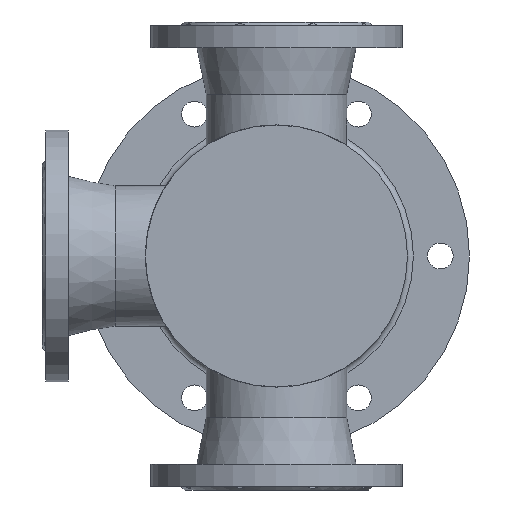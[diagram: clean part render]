
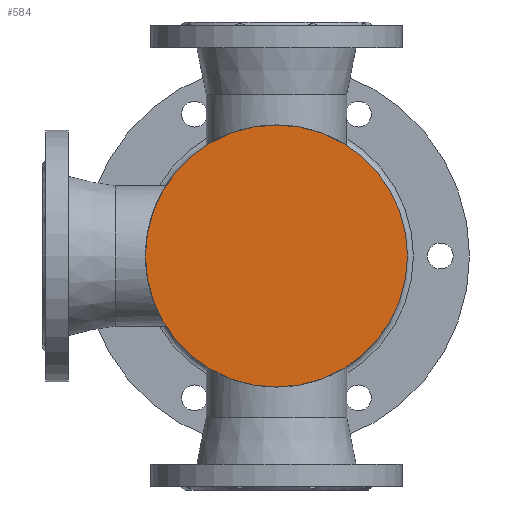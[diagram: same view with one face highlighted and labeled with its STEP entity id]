
A CAD part, front view. The second image highlights one B-rep face of the part: STEP entity #584.
In plain terms, the highlighted planar face has unit normal (0, -1, 0).
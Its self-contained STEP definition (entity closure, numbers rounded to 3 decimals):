
#584=ADVANCED_FACE('',(#1434),#1436,.T.);
#1434=FACE_BOUND('',#1435,.T.);
#1435=EDGE_LOOP('',(#1995));
#1436=PLANE('',#1437);
#1437=AXIS2_PLACEMENT_3D('',#1438,#1439,#1440);
#1438=CARTESIAN_POINT('',(0.,-157.5,0.));
#1439=DIRECTION('',(0.,-1.,0.));
#1440=DIRECTION('',(0.,0.,-1.));
#1995=ORIENTED_EDGE('',*,*,#2256,.T.);
#2256=EDGE_CURVE('',#2616,#2616,#2617,.T.);
#2616=VERTEX_POINT('',#5989);
#2617=CIRCLE('',#5990,112.);
#5989=CARTESIAN_POINT('',(0.,-157.5,-112.));
#5990=AXIS2_PLACEMENT_3D('',#5991,#5992,#5993);
#5991=CARTESIAN_POINT('',(0.,-157.5,0.));
#5992=DIRECTION('',(0.,-1.,0.));
#5993=DIRECTION('',(0.,0.,-1.));
